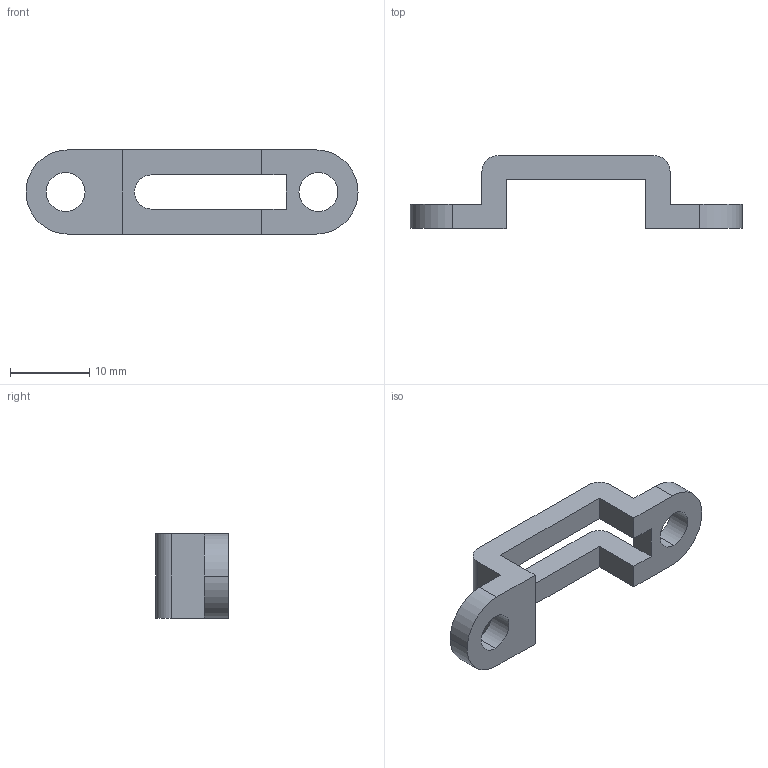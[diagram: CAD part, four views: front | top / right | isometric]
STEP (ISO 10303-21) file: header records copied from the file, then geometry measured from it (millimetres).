
FILE_DESCRIPTION (( 'STEP AP214' ), '1' );
FILE_NAME ('4032_Reference_STEP.STEP', '2025-03-24T14:33:04', ( '' ), ( '' ), 'SwSTEP 2.0', 'SolidWorks 2025', '' );
FILE_SCHEMA (( 'AUTOMOTIVE_DESIGN' ));
Length unit declared in the file: inch
Products named in the file (1): 4032_Reference_STEP
Bounding box: 42.01 x 9.22 x 10.67 mm (x, y, z)
Volume: 1234 mm3; surface area: 1437.6 mm2
Topology: 1 solids, 1 shells, 29 faces, 85 edges, 56 vertices
Faces by surface type: plane 17, cylinder 12
Entity records: 1006 total; most frequent: CARTESIAN_POINT 171, ORIENTED_EDGE 170, DIRECTION 169, EDGE_CURVE 85, LINE 61, VECTOR 61, VERTEX_POINT 56, AXIS2_PLACEMENT_3D 54
